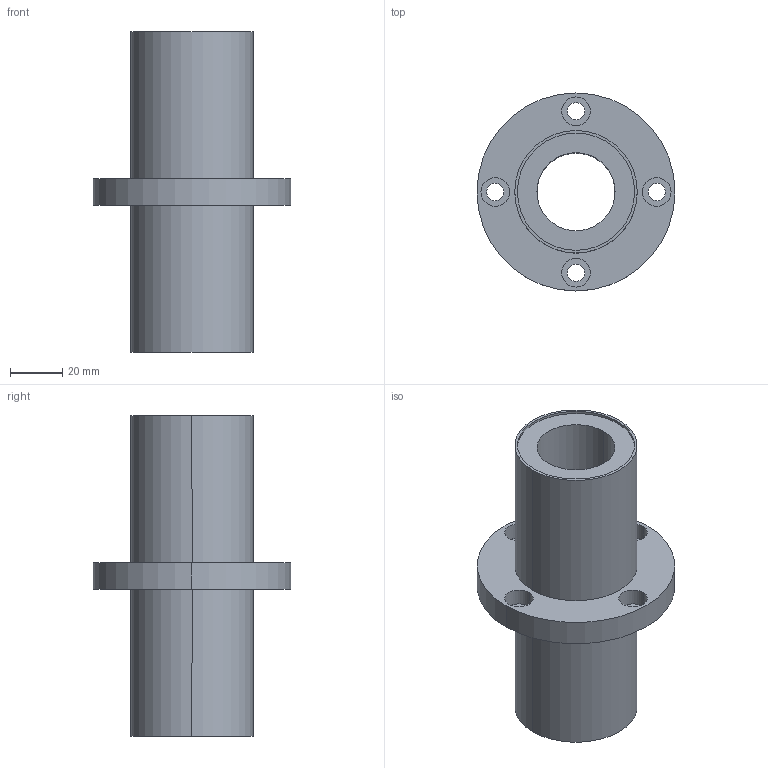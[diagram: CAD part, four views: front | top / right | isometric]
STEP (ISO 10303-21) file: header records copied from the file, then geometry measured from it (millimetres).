
FILE_DESCRIPTION((''),'2;1');
FILE_NAME('C:\Documents and Settings\ｿﾀﾀ蠑ｷ1\ｹﾙﾅﾁ ﾈｭｸ饅\ｺﾎﾇｰﾆﾄﾀﾏ\ﾁｦﾇｰ\LMEFM__UU\LMEFM16UU.stp','2005-06-16T13:27:20',('ｿﾀﾀ蠑ｷ1'),(''),'Autodesk Inventor 9','Autodesk Inventor 9','');
FILE_SCHEMA(('AUTOMOTIVE_DESIGN { 1 0 10303 214 1 1 1 1 }'));
Length unit declared in the file: millimetre
Products named in the file (1): LMEFM__UU
Bounding box: 76 x 76 x 123 mm (x, y, z)
Volume: 149753.1 mm3; surface area: 39333.4 mm2
Topology: 1 solids, 1 shells, 38 faces, 84 edges, 56 vertices
Faces by surface type: bspline 20, cylinder 12, plane 6
Entity records: 1335 total; most frequent: CARTESIAN_POINT 463, DIRECTION 178, ORIENTED_EDGE 168, EDGE_CURVE 84, AXIS2_PLACEMENT_3D 75, VERTEX_POINT 56, CIRCLE 56, EDGE_LOOP 56
